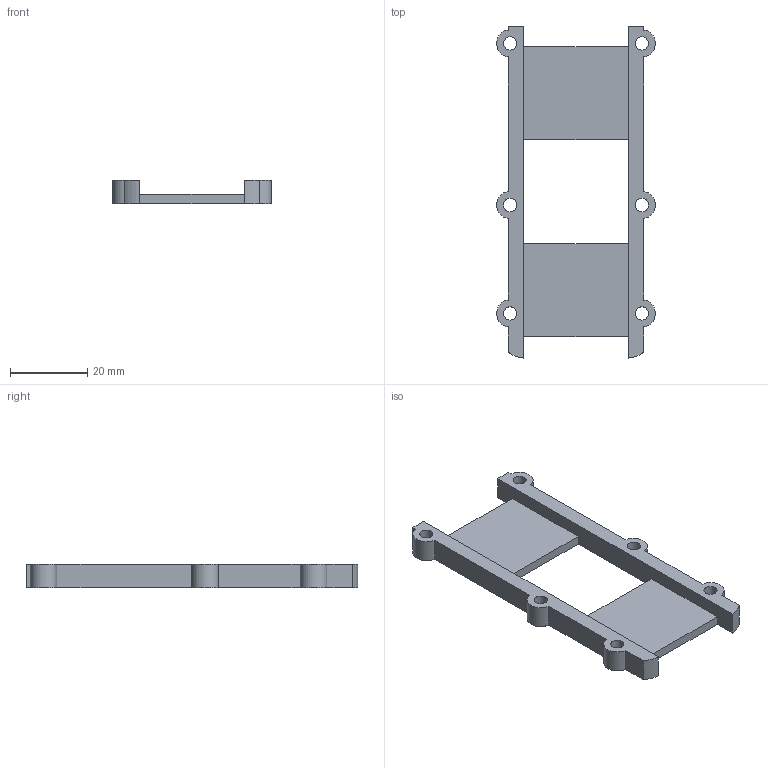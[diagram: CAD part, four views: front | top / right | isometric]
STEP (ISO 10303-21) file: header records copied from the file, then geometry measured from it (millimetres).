
FILE_DESCRIPTION(('Open CASCADE Model'),'2;1');
FILE_NAME('Open CASCADE Shape Model','2026-10-09T15:33:13',('Author'),( 'Open CASCADE'),'Open CASCADE STEP processor 7.9','Open CASCADE 7.9' ,'Unknown');
FILE_SCHEMA(('AUTOMOTIVE_DESIGN { 1 0 10303 214 1 1 1 1 }'));
Length unit declared in the file: millimetre
Products named in the file (1): Open CASCADE STEP translator 7.9 10
Bounding box: 40.98 x 85.68 x 6 mm (x, y, z)
Volume: 7325.5 mm3; surface area: 6657.2 mm2
Topology: 1 solids, 1 shells, 41 faces, 114 edges, 74 vertices
Faces by surface type: plane 21, cylinder 14, cone 6
Full cylindrical faces by diameter (mm): 3.4 x6
Entity records: 2776 total; most frequent: CARTESIAN_POINT 696, DIRECTION 322, ORIENTED_EDGE 228, PCURVE 228, DEFINITIONAL_REPRESENTATION 228, LINE 162, VECTOR 162, B_SPLINE_CURVE_WITH_KNOTS 118
